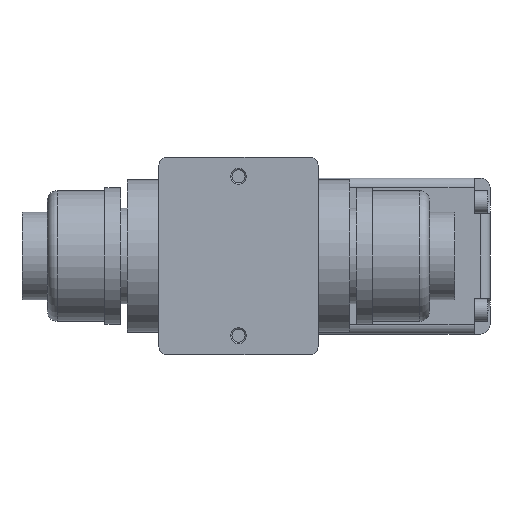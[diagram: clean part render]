
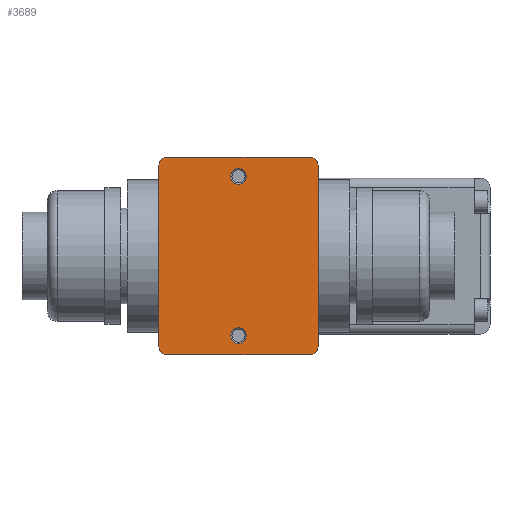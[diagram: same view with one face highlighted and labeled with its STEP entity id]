
A CAD part, front view. The second image highlights one B-rep face of the part: STEP entity #3689.
In plain terms, the highlighted planar face has unit normal (0, -1, 0).
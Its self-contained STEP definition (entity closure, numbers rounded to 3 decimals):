
#94=PLANE('',#4016);
#218=LINE('',#5520,#530);
#339=LINE('',#6011,#651);
#352=LINE('',#6041,#664);
#356=LINE('',#6055,#668);
#530=VECTOR('',#4356,1000.);
#651=VECTOR('',#4651,1000.);
#664=VECTOR('',#4672,1000.);
#668=VECTOR('',#4686,1000.);
#1125=ORIENTED_EDGE('',*,*,#2124,.F.);
#1126=ORIENTED_EDGE('',*,*,#2125,.F.);
#1127=ORIENTED_EDGE('',*,*,#2093,.F.);
#1128=ORIENTED_EDGE('',*,*,#2119,.F.);
#1129=ORIENTED_EDGE('',*,*,#1894,.F.);
#1130=ORIENTED_EDGE('',*,*,#2117,.F.);
#1131=ORIENTED_EDGE('',*,*,#2115,.F.);
#1132=ORIENTED_EDGE('',*,*,#2111,.F.);
#1133=ORIENTED_EDGE('',*,*,#2108,.F.);
#1134=ORIENTED_EDGE('',*,*,#2096,.F.);
#1894=EDGE_CURVE('',#2416,#2413,#218,.T.);
#2093=EDGE_CURVE('',#2578,#2575,#339,.T.);
#2096=EDGE_CURVE('',#2575,#2579,#2820,.T.);
#2108=EDGE_CURVE('',#2579,#2590,#352,.T.);
#2111=EDGE_CURVE('',#2590,#2592,#2822,.T.);
#2115=EDGE_CURVE('',#2592,#2595,#356,.T.);
#2117=EDGE_CURVE('',#2595,#2416,#2825,.T.);
#2119=EDGE_CURVE('',#2413,#2578,#2827,.T.);
#2124=EDGE_CURVE('',#2601,#2601,#2832,.T.);
#2125=EDGE_CURVE('',#2602,#2602,#2833,.T.);
#2413=VERTEX_POINT('',#5514);
#2416=VERTEX_POINT('',#5519);
#2575=VERTEX_POINT('',#6005);
#2578=VERTEX_POINT('',#6010);
#2579=VERTEX_POINT('',#6014);
#2590=VERTEX_POINT('',#6038);
#2592=VERTEX_POINT('',#6044);
#2595=VERTEX_POINT('',#6052);
#2601=VERTEX_POINT('',#6074);
#2602=VERTEX_POINT('',#6076);
#2820=CIRCLE('',#3997,2.5);
#2822=CIRCLE('',#4001,2.5);
#2825=CIRCLE('',#4006,2.5);
#2827=CIRCLE('',#4009,2.5);
#2832=CIRCLE('',#4017,2.5);
#2833=CIRCLE('',#4018,2.5);
#2998=EDGE_LOOP('',(#1125));
#2999=EDGE_LOOP('',(#1126));
#3000=EDGE_LOOP('',(#1127,#1128,#1129,#1130,#1131,#1132,#1133,#1134));
#3310=FACE_BOUND('',#2998,.T.);
#3311=FACE_BOUND('',#2999,.T.);
#3312=FACE_BOUND('',#3000,.T.);
#3689=ADVANCED_FACE('',(#3310,#3311,#3312),#94,.F.);
#3997=AXIS2_PLACEMENT_3D('',#6017,#4657,#4658);
#4001=AXIS2_PLACEMENT_3D('',#6047,#4678,#4679);
#4006=AXIS2_PLACEMENT_3D('',#6058,#4691,#4692);
#4009=AXIS2_PLACEMENT_3D('',#6061,#4697,#4698);
#4016=AXIS2_PLACEMENT_3D('',#6072,#4711,#4712);
#4017=AXIS2_PLACEMENT_3D('',#6073,#4713,#4714);
#4018=AXIS2_PLACEMENT_3D('',#6075,#4715,#4716);
#4356=DIRECTION('',(-1.,0.,0.));
#4651=DIRECTION('',(0.,0.,1.));
#4657=DIRECTION('',(0.,1.,0.));
#4658=DIRECTION('',(1.,0.,0.));
#4672=DIRECTION('',(1.,0.,0.));
#4678=DIRECTION('',(0.,1.,0.));
#4679=DIRECTION('',(1.,0.,0.));
#4686=DIRECTION('',(0.,0.,-1.));
#4691=DIRECTION('',(0.,1.,0.));
#4692=DIRECTION('',(1.,0.,0.));
#4697=DIRECTION('',(0.,1.,0.));
#4698=DIRECTION('',(1.,0.,0.));
#4711=DIRECTION('',(0.,1.,0.));
#4712=DIRECTION('',(0.,0.,1.));
#4713=DIRECTION('',(0.,-1.,0.));
#4714=DIRECTION('',(0.,0.,-1.));
#4715=DIRECTION('',(0.,-1.,0.));
#4716=DIRECTION('',(0.,0.,-1.));
#5514=CARTESIAN_POINT('',(-22.5,-55.,-31.));
#5519=CARTESIAN_POINT('',(22.5,-55.,-31.));
#5520=CARTESIAN_POINT('',(22.5,-55.,-31.));
#6005=CARTESIAN_POINT('',(-25.,-55.,28.5));
#6010=CARTESIAN_POINT('',(-25.,-55.,-28.5));
#6011=CARTESIAN_POINT('',(-25.,-55.,-28.5));
#6014=CARTESIAN_POINT('',(-22.5,-55.,31.));
#6017=CARTESIAN_POINT('',(-22.5,-55.,28.5));
#6038=CARTESIAN_POINT('',(22.5,-55.,31.));
#6041=CARTESIAN_POINT('',(-22.5,-55.,31.));
#6044=CARTESIAN_POINT('',(25.,-55.,28.5));
#6047=CARTESIAN_POINT('',(22.5,-55.,28.5));
#6052=CARTESIAN_POINT('',(25.,-55.,-28.5));
#6055=CARTESIAN_POINT('',(25.,-55.,28.5));
#6058=CARTESIAN_POINT('',(22.5,-55.,-28.5));
#6061=CARTESIAN_POINT('',(-22.5,-55.,-28.5));
#6072=CARTESIAN_POINT('',(-22.5,-55.,28.5));
#6073=CARTESIAN_POINT('',(0.,-55.,25.));
#6074=CARTESIAN_POINT('',(0.,-55.,22.5));
#6075=CARTESIAN_POINT('',(0.,-55.,-25.));
#6076=CARTESIAN_POINT('',(0.,-55.,-27.5));
